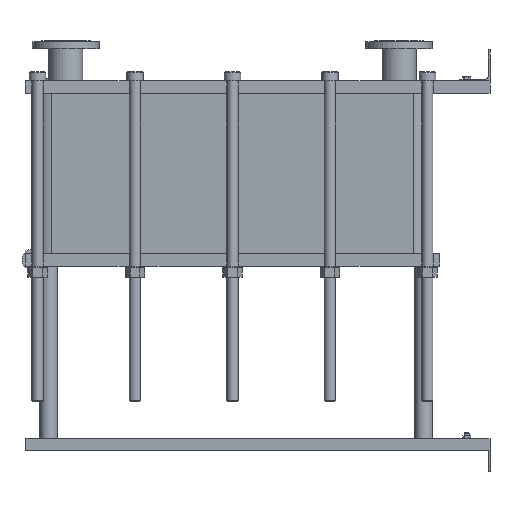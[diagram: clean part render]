
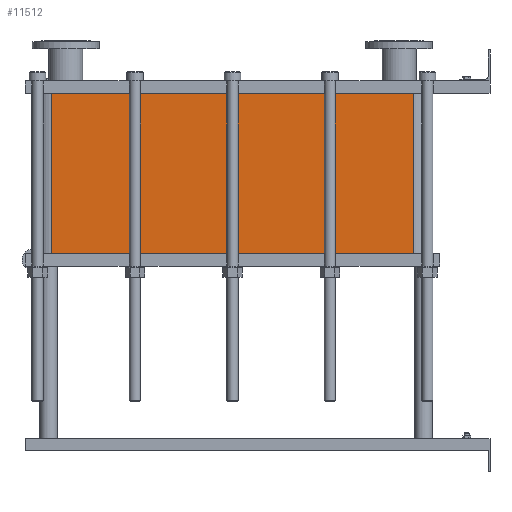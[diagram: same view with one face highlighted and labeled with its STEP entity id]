
A CAD part, left-side view. The second image highlights one B-rep face of the part: STEP entity #11512.
In plain terms, the highlighted planar face has unit normal (-1, 0, 0).
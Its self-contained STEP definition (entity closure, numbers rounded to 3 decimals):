
#1129=LINE('',#23232,#2102);
#1130=LINE('',#23236,#2103);
#1131=LINE('',#23238,#2104);
#1132=LINE('',#23239,#2105);
#2102=VECTOR('',#15887,10.);
#2103=VECTOR('',#15892,10.);
#2104=VECTOR('',#15893,10.);
#2105=VECTOR('',#15894,10.);
#3267=FACE_OUTER_BOUND('',#4093,.T.);
#4093=EDGE_LOOP('',(#10103,#10104,#10105,#10106));
#5642=VERTEX_POINT('',#23229);
#5643=VERTEX_POINT('',#23231);
#5644=VERTEX_POINT('',#23235);
#5645=VERTEX_POINT('',#23237);
#7159=EDGE_CURVE('',#5643,#5642,#1129,.T.);
#7161=EDGE_CURVE('',#5642,#5644,#1130,.T.);
#7162=EDGE_CURVE('',#5645,#5644,#1131,.T.);
#7163=EDGE_CURVE('',#5645,#5643,#1132,.T.);
#10103=ORIENTED_EDGE('',*,*,#7161,.T.);
#10104=ORIENTED_EDGE('',*,*,#7162,.F.);
#10105=ORIENTED_EDGE('',*,*,#7163,.T.);
#10106=ORIENTED_EDGE('',*,*,#7159,.T.);
#10857=PLANE('',#12751);
#11512=ADVANCED_FACE('',(#3267),#10857,.T.);
#12751=AXIS2_PLACEMENT_3D('',#23234,#15890,#15891);
#15887=DIRECTION('',(0.,0.,-1.));
#15890=DIRECTION('center_axis',(-1.,0.,0.));
#15891=DIRECTION('ref_axis',(0.,1.,0.));
#15892=DIRECTION('',(0.,-1.,0.));
#15893=DIRECTION('',(0.,0.,-1.));
#15894=DIRECTION('',(0.,1.,0.));
#23229=CARTESIAN_POINT('',(-200.,1414.,-517.5));
#23231=CARTESIAN_POINT('',(-200.,1414.,0.));
#23232=CARTESIAN_POINT('',(-200.,1414.,0.));
#23234=CARTESIAN_POINT('Origin',(-200.,248.,0.));
#23235=CARTESIAN_POINT('',(-200.,248.,-517.5));
#23236=CARTESIAN_POINT('',(-200.,539.5,-517.5));
#23237=CARTESIAN_POINT('',(-200.,248.,0.));
#23238=CARTESIAN_POINT('',(-200.,248.,0.));
#23239=CARTESIAN_POINT('',(-200.,248.,0.));
